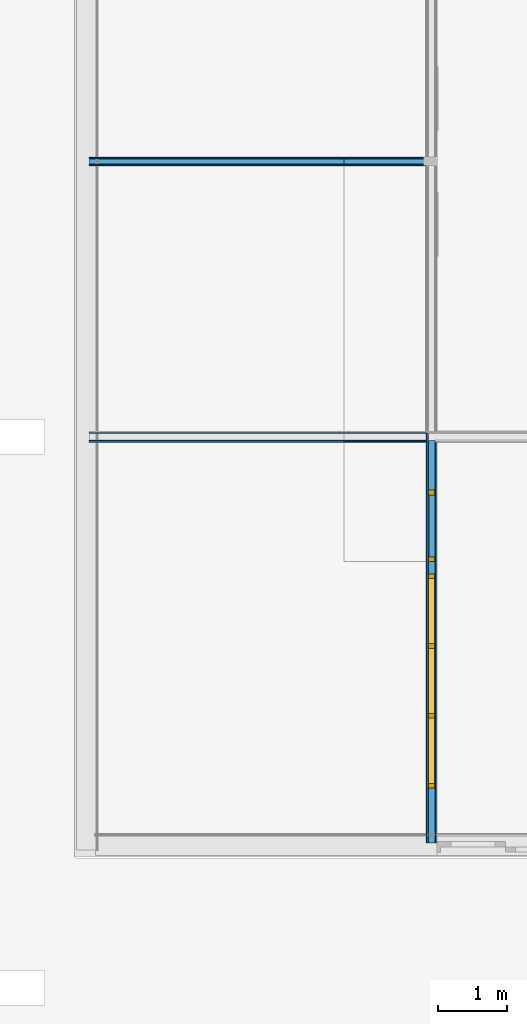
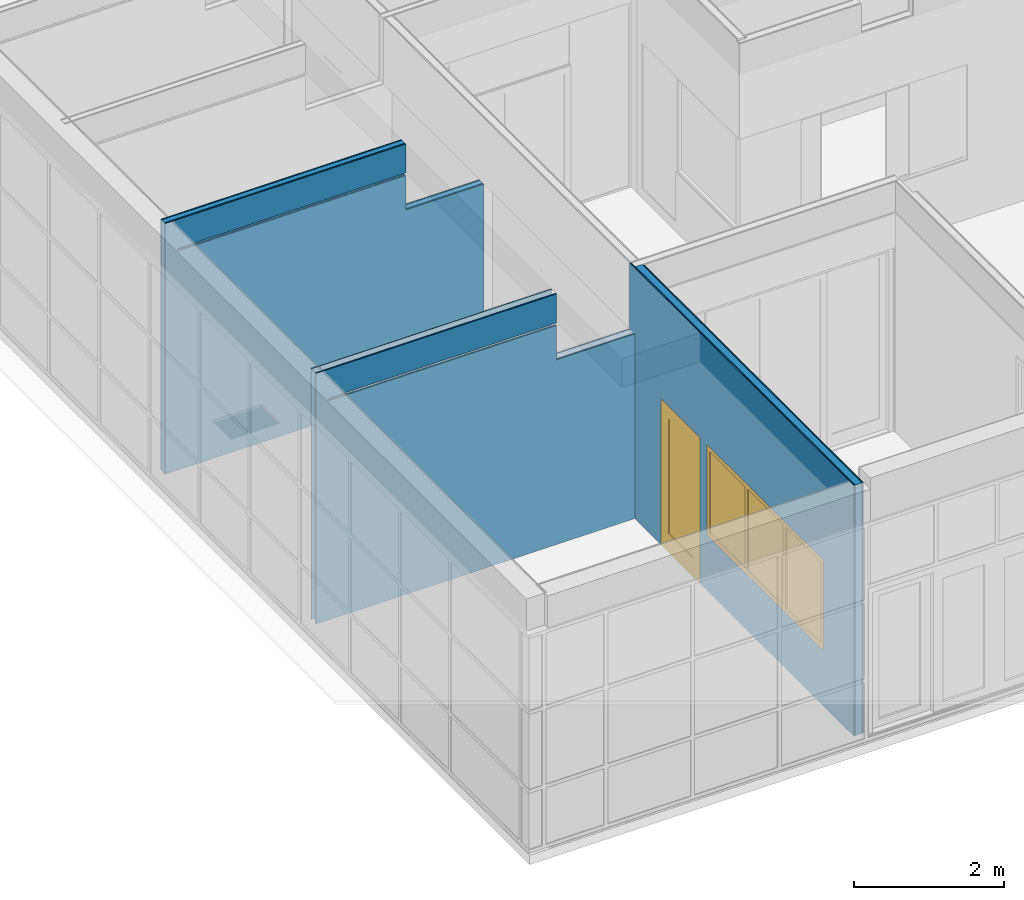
# One storey, part 30 of 109: 13 building element parts, 1 door, 1 window, 2 openings, 3 elements without a shape of their own.
"""IFC2X3 building model written with IfcOpenShell, lengths in millimetres."""

from ifc_helpers import new_model, entity, si_unit, converted_unit, derived_unit, money_unit, direction, frame, origin_with_axes, place, context, subcontext, project, spatial, open_shell, faceted_brep, surface_model, material, type_object, element, fill, aggregate, save


model = new_model("IFC2X3")

# Units and contexts
model_context = context("Model", 3, precision=0.01, world=origin_with_axes(), true_north=direction((0.0, 1.0)))
body_context = subcontext(model_context, "Body", "Model", "MODEL_VIEW")
ifc_project = project(units=[si_unit("LENGTHUNIT", "METRE", prefix="MILLI"), si_unit("AREAUNIT", "SQUARE_METRE"), si_unit("VOLUMEUNIT", "CUBIC_METRE"), converted_unit("PLANEANGLEUNIT", "DEGREE", entity("IfcPlaneAngleMeasure", 0.0174532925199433), si_unit("PLANEANGLEUNIT", "RADIAN"), dimensions=[0, 0, 0, 0, 0, 0, 0]), money_unit("EUR"), converted_unit("TIMEUNIT", "Year", entity("IfcTimeMeasure", 31557600.0), si_unit("TIMEUNIT", "SECOND"), dimensions=[0, 0, 1, 0, 0, 0, 0]), si_unit("MASSUNIT", "GRAM", prefix="KILO"), si_unit("THERMODYNAMICTEMPERATUREUNIT", "DEGREE_CELSIUS"), si_unit("LUMINOUSINTENSITYUNIT", "LUMEN"), si_unit("ENERGYUNIT", "JOULE", prefix="MEGA"), derived_unit("THERMALCONDUCTANCEUNIT", [(si_unit("POWERUNIT", "WATT"), 1), (si_unit("LENGTHUNIT", "METRE"), -1), (si_unit("THERMODYNAMICTEMPERATUREUNIT", "KELVIN"), -1)]), derived_unit("SPECIFICHEATCAPACITYUNIT", [(si_unit("ENERGYUNIT", "JOULE"), 1), (si_unit("MASSUNIT", "GRAM", prefix="KILO"), -1), (si_unit("THERMODYNAMICTEMPERATUREUNIT", "KELVIN"), -1)]), derived_unit("MASSDENSITYUNIT", [(si_unit("MASSUNIT", "GRAM", prefix="KILO"), 1), (si_unit("VOLUMEUNIT", "CUBIC_METRE"), -1)])], contexts=[model_context])

# Site, building, storey
site_placement = place(None, origin_with_axes())
site = spatial("IfcSite", under=ifc_project, at=site_placement, Name="<site naam>", CompositionType="ELEMENT")
building_placement = place(site_placement, origin_with_axes())
building = spatial("IfcBuilding", under=site, at=building_placement, Name="<Naam gebouw>", CompositionType="ELEMENT")
storey_placement = place(building_placement, origin_with_axes())
storey = spatial("IfcBuildingStorey", under=building, at=storey_placement, Name="00 Begane grond", CompositionType="ELEMENT", Elevation=0.0)

# Window
window_style = type_object("IfcWindowStyle", Name="R3 bl ol 27", ConstructionType="NOTDEFINED", OperationType="TRIPLE_PANEL_VERTICAL", ParameterTakesPrecedence=False, Sizeable=False)
wall_1_placement = place(storey_placement, frame((-3999.999999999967, 8000.000000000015, 0.0), z_axis=(0.0, 0.0, 1.0), x_axis=(0.0, -1.0, 0.0)))
opening_1_placement = place(wall_1_placement, frame((3544.817149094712, 0.0, 902.9999549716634), z_axis=(0.0, 0.0, 1.0), x_axis=(1.0, 0.0, 0.0)))
window_placement = place(opening_1_placement, frame((1555.817200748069, 0.0, 0.0), z_axis=(0.0, 0.0, 1.0), x_axis=(-1.0, 0.0, 0.0)))
window = element("IfcWindow", 1, at=window_placement, inside=storey, type_object=window_style, Name="22_BI-E-04_305", ObjectType="WINDOW", OverallHeight=1464.0, OverallWidth=3111.63, context=body_context, shape_type="SurfaceModel", body=[
    faceted_brep([(66.99999999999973, -38.9999999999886, 1397.0), (67.00000000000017, 75.00000000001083, 1397.0), (0.0, 75.00000000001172, 1397.0), (0.0, -38.9999999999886, 1397.0), (66.99999999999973, -38.99999999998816, 66.99999999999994), (67.00000000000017, 75.00000000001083, 66.99999999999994), (0.0, 75.00000000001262, 66.99999999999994), (0.0, -38.99999999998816, 66.99999999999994)], [[[0, 1, 2, 3]], [[4, 5, 1, 0]], [[1, 5, 6, 2]], [[3, 2, 6, 7]], [[0, 3, 7, 4]], [[7, 6, 5, 4]]]),
    faceted_brep([(3044.634401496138, -38.99999999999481, 66.99999999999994), (3044.634401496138, 75.00000000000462, 66.99999999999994), (3111.634401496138, 75.00000000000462, 66.99999999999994), (3111.634401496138, -38.99999999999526, 66.99999999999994), (3044.634401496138, -38.99999999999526, 1397.0), (3044.634401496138, 75.00000000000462, 1397.0), (3111.634401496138, 75.00000000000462, 1397.0), (3111.634401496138, -38.99999999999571, 1397.0)], [[[0, 1, 2, 3]], [[4, 5, 1, 0]], [[1, 5, 6, 2]], [[3, 2, 6, 7]], [[0, 3, 7, 4]], [[7, 6, 5, 4]]]),
    faceted_brep([(2029.756267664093, -38.99999999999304, 66.99999999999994), (2029.756267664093, 75.00000000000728, 66.99999999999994), (2096.756267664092, 75.00000000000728, 66.99999999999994), (2096.756267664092, -38.99999999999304, 66.99999999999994), (2029.756267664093, -38.99999999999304, 1397.0), (2029.756267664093, 75.00000000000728, 1397.0), (2096.756267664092, 75.00000000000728, 1397.0), (2096.756267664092, -38.99999999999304, 1397.0)], [[[0, 1, 2, 3]], [[4, 5, 1, 0]], [[1, 5, 6, 2]], [[3, 2, 6, 7]], [[0, 3, 7, 4]], [[7, 6, 5, 4]]]),
    faceted_brep([(1081.878133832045, -38.99999999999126, 1397.0), (1081.878133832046, 75.00000000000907, 1397.0), (1014.878133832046, 75.00000000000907, 1397.0), (1014.878133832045, -38.99999999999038, 1397.0), (1081.878133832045, -38.99999999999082, 66.99999999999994), (1081.878133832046, 75.00000000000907, 66.99999999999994), (1014.878133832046, 75.00000000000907, 66.99999999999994), (1014.878133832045, -38.99999999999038, 66.99999999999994)], [[[0, 1, 2, 3]], [[4, 5, 1, 0]], [[1, 5, 6, 2]], [[3, 2, 6, 7]], [[0, 3, 7, 4]], [[7, 6, 5, 4]]]),
    faceted_brep([(66.99999999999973, -38.99999999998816, 66.99999999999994), (67.00000000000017, 75.00000000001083, 66.99999999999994), (0.0, 75.00000000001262, 66.99999999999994), (0.0, -38.99999999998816, 66.99999999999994), (1014.878133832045, -38.99999999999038, 66.99999999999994), (1014.878133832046, 75.00000000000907, 66.99999999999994), (1081.878133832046, 75.00000000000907, 66.99999999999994), (2029.756267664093, 75.00000000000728, 66.99999999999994), (2096.756267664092, 75.00000000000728, 66.99999999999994), (3044.634401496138, 75.00000000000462, 66.99999999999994), (3111.634401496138, 75.00000000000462, 66.99999999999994), (3111.634401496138, 75.00000000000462, 0.0), (0.0, 75.00000000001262, 0.0), (0.0, -38.99999999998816, 0.0), (3111.634401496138, -38.99999999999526, 0.0), (3111.634401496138, -38.99999999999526, 66.99999999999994), (3044.634401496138, -38.99999999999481, 66.99999999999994), (2096.756267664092, -38.99999999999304, 66.99999999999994), (2029.756267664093, -38.99999999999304, 66.99999999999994), (1081.878133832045, -38.99999999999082, 66.99999999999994)], [[[0, 1, 2, 3]], [[4, 5, 1, 0]], [[1, 5, 6, 7, 8, 9, 10, 11, 12, 2]], [[3, 2, 12, 13]], [[0, 3, 13, 14, 15, 16, 17, 18, 19, 4]], [[19, 6, 5, 4]], [[18, 7, 6, 19]], [[17, 8, 7, 18]], [[16, 9, 8, 17]], [[15, 10, 9, 16]], [[14, 11, 10, 15]], [[13, 12, 11, 14]]]),
    faceted_brep([(1014.878133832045, -38.99999999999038, 1397.0), (1014.878133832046, 75.00000000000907, 1397.0), (1081.878133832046, 75.00000000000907, 1397.0), (1081.878133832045, -38.99999999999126, 1397.0), (66.99999999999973, -38.9999999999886, 1397.0), (67.00000000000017, 75.00000000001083, 1397.0), (0.0, 75.00000000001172, 1397.0), (0.0, 75.00000000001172, 1464.0), (3111.634401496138, 75.00000000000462, 1464.0), (3111.634401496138, 75.00000000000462, 1397.0), (3044.634401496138, 75.00000000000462, 1397.0), (2096.756267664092, 75.00000000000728, 1397.0), (2029.756267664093, 75.00000000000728, 1397.0), (2029.756267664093, -38.99999999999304, 1397.0), (2096.756267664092, -38.99999999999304, 1397.0), (3044.634401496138, -38.99999999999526, 1397.0), (3111.634401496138, -38.99999999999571, 1397.0), (3111.634401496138, -38.99999999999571, 1464.0), (0.0, -38.9999999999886, 1464.0), (0.0, -38.9999999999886, 1397.0)], [[[0, 1, 2, 3]], [[4, 5, 1, 0]], [[1, 5, 6, 7, 8, 9, 10, 11, 12, 2]], [[3, 2, 12, 13]], [[0, 3, 13, 14, 15, 16, 17, 18, 19, 4]], [[19, 6, 5, 4]], [[18, 7, 6, 19]], [[17, 8, 7, 18]], [[16, 9, 8, 17]], [[15, 10, 9, 16]], [[14, 11, 10, 15]], [[13, 12, 11, 14]]]),
    surface_model("IfcShellBasedSurfaceModel", [(67.00000000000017, 35.00000000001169, 66.99999999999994), (1014.878133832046, 35.00000000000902, 66.99999999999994), (1014.878133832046, 35.00000000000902, 1397.0), (67.00000000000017, 35.0000000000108, 1397.0)], [open_shell([[[0, 1, 2, 3]]])]),
    surface_model("IfcShellBasedSurfaceModel", [(67.00000000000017, 55.00000000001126, 66.99999999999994), (67.00000000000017, 55.00000000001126, 1397.0), (1014.878133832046, 55.0000000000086, 1397.0), (1014.878133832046, 55.00000000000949, 66.99999999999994)], [open_shell([[[0, 1, 2, 3]]])]),
    surface_model("IfcShellBasedSurfaceModel", [(1081.878133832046, 35.00000000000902, 66.99999999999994), (2029.756267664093, 35.00000000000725, 66.99999999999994), (2029.756267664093, 35.00000000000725, 1397.0), (1081.878133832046, 35.00000000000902, 1397.0)], [open_shell([[[0, 1, 2, 3]]])]),
    surface_model("IfcShellBasedSurfaceModel", [(1081.878133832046, 55.00000000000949, 66.99999999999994), (1081.878133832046, 55.0000000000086, 1397.0), (2029.756267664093, 55.00000000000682, 1397.0), (2029.756267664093, 55.00000000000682, 66.99999999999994)], [open_shell([[[0, 1, 2, 3]]])]),
    surface_model("IfcShellBasedSurfaceModel", [(2096.756267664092, 35.00000000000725, 66.99999999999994), (3044.634401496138, 35.00000000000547, 66.99999999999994), (3044.634401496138, 35.00000000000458, 1397.0), (2096.756267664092, 35.00000000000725, 1397.0)], [open_shell([[[0, 1, 2, 3]]])]),
    surface_model("IfcShellBasedSurfaceModel", [(2096.756267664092, 55.00000000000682, 66.99999999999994), (2096.756267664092, 55.00000000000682, 1397.0), (3044.634401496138, 55.00000000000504, 1397.0), (3044.634401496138, 55.00000000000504, 66.99999999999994)], [open_shell([[[0, 1, 2, 3]]])]),
])

# Door
door_style = type_object("IfcDoorStyle", Name="D1 27", ConstructionType="NOTDEFINED", OperationType="SINGLE_SWING_RIGHT", ParameterTakesPrecedence=False, Sizeable=False)
opening_2_placement = place(wall_1_placement, frame((1292.0, 0.0, 0.0), z_axis=(0.0, 0.0, 1.0), x_axis=(1.0, 0.0, 0.0)))
door_placement = place(opening_2_placement, frame((450.0000000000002, 0.0, 0.0), z_axis=(0.0, 0.0, 1.0), x_axis=(-1.0, 0.0, 0.0)))
door = element("IfcDoor", 2, at=door_placement, inside=storey, type_object=door_style, Name="22_BI-A-02 sp_305", ObjectType="DOOR", OverallHeight=2367.0, OverallWidth=1034.0, context=body_context, shape_type="SurfaceModel", body=[
    faceted_brep([(0.0, 35.00000000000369, 0.0), (0.0, 35.00000000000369, 2300.0), (0.0, -38.99999999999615, 2300.0), (0.0, -38.99999999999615, 0.0), (-16.99999999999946, 35.00000000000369, 2300.0), (-16.99999999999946, 35.00000000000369, 0.0), (-16.99999999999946, 75.00000000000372, 2300.0), (-67.00000000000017, 75.00000000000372, 2300.0), (-67.00000000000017, -38.99999999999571, 2300.0), (-67.00000000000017, -38.99999999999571, 0.0), (-67.00000000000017, 75.00000000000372, 0.0), (-16.99999999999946, 75.00000000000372, 0.0)], [[[0, 1, 2, 3]], [[4, 1, 0, 5]], [[4, 6, 7, 8, 2, 1]], [[3, 2, 8, 9]], [[5, 0, 3, 9, 10, 11]], [[6, 4, 5, 11]], [[6, 11, 10, 7]], [[10, 9, 8, 7]]]),
    faceted_brep([(916.9999999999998, 35.00000000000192, 2300.0), (900.0000000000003, 35.00000000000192, 2300.0), (900.0000000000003, -38.99999999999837, 2300.0), (967.0000000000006, -38.99999999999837, 2300.0), (967.0000000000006, 75.00000000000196, 2300.0), (916.9999999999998, 75.00000000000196, 2300.0), (916.9999999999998, 35.00000000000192, 0.0), (900.0000000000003, 35.00000000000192, 0.0), (900.0000000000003, -38.99999999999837, 0.0), (967.0000000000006, -38.99999999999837, 0.0), (967.0000000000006, 75.00000000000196, 0.0), (916.9999999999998, 75.00000000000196, 0.0)], [[[0, 1, 2, 3, 4, 5]], [[1, 0, 6, 7]], [[1, 7, 8, 2]], [[3, 2, 8, 9]], [[4, 3, 9, 10]], [[11, 5, 4, 10]], [[0, 5, 11, 6]], [[6, 11, 10, 9, 8, 7]]]),
    faceted_brep([(-16.99999999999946, 75.00000000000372, 2317.0), (-16.99999999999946, 75.00000000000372, 2300.0), (-67.00000000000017, 75.00000000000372, 2300.0), (-67.00000000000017, 75.00000000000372, 2367.0), (967.0000000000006, 75.00000000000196, 2367.0), (967.0000000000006, 75.00000000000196, 2300.0), (916.9999999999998, 75.00000000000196, 2300.0), (916.9999999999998, 75.00000000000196, 2317.0), (-16.99999999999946, 35.00000000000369, 2317.0), (-16.99999999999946, 35.00000000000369, 2300.0), (0.0, 35.00000000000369, 2300.0), (0.0, -38.99999999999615, 2300.0), (-67.00000000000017, -38.99999999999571, 2300.0), (-67.00000000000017, -38.99999999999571, 2367.0), (967.0000000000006, -38.99999999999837, 2367.0), (967.0000000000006, -38.99999999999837, 2300.0), (916.9999999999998, 35.00000000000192, 2300.0), (900.0000000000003, -38.99999999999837, 2300.0), (900.0000000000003, 35.00000000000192, 2300.0), (916.9999999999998, 35.00000000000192, 2317.0)], [[[0, 1, 2, 3, 4, 5, 6, 7]], [[1, 0, 8, 9]], [[9, 10, 11, 12, 2, 1]], [[2, 12, 13, 3]], [[3, 13, 14, 4]], [[4, 14, 15, 5]], [[16, 6, 5, 15, 17, 18]], [[7, 6, 16, 19]], [[0, 7, 19, 8]], [[16, 18, 10, 9, 8, 19]], [[10, 18, 17, 11]], [[17, 15, 14, 13, 12, 11]]]),
    faceted_brep([(917.0000000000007, 75.00000000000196, 300.0), (917.0000000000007, 35.00000000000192, 300.0), (767.0000000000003, 35.00000000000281, 300.0), (767.0000000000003, 75.00000000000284, 300.0), (917.0000000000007, 75.00000000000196, 2167.0), (917.0000000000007, 35.00000000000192, 2167.0), (767.0000000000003, 35.00000000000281, 2167.0), (767.0000000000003, 75.00000000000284, 2167.0)], [[[0, 1, 2, 3]], [[4, 5, 1, 0]], [[1, 5, 6, 2]], [[3, 2, 6, 7]], [[0, 3, 7, 4]], [[7, 6, 5, 4]]]),
    faceted_brep([(-16.99999999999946, 75.00000000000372, 300.0), (-16.99999999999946, 35.00000000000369, 300.0), (-16.99999999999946, 35.00000000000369, 2167.0), (-16.99999999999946, 75.00000000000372, 2167.0), (133.0, 75.00000000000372, 300.0), (133.0, 35.00000000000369, 300.0), (133.0, 35.00000000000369, 2167.0), (133.0, 75.00000000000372, 2167.0)], [[[0, 1, 2, 3]], [[4, 5, 1, 0]], [[1, 5, 6, 2]], [[3, 2, 6, 7]], [[0, 3, 7, 4]], [[7, 6, 5, 4]]]),
    faceted_brep([(917.0000000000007, 75.00000000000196, 0.0), (917.0000000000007, 35.00000000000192, 0.0), (-16.99999999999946, 35.00000000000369, 0.0), (-16.99999999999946, 75.00000000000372, 0.0), (917.0000000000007, 75.00000000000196, 300.0), (917.0000000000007, 35.00000000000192, 300.0), (767.0000000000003, 35.00000000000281, 300.0), (133.0, 35.00000000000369, 300.0), (-16.99999999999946, 35.00000000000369, 300.0), (-16.99999999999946, 75.00000000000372, 300.0), (133.0, 75.00000000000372, 300.0), (767.0000000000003, 75.00000000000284, 300.0)], [[[0, 1, 2, 3]], [[4, 5, 1, 0]], [[1, 5, 6, 7, 8, 2]], [[3, 2, 8, 9]], [[0, 3, 9, 10, 11, 4]], [[11, 6, 5, 4]], [[10, 7, 6, 11]], [[9, 8, 7, 10]]]),
    faceted_brep([(917.0000000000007, 75.00000000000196, 2317.0), (917.0000000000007, 35.00000000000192, 2317.0), (917.0000000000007, 35.00000000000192, 2167.0), (917.0000000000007, 75.00000000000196, 2167.0), (-16.99999999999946, 75.00000000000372, 2317.0), (-16.99999999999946, 35.00000000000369, 2317.0), (-16.99999999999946, 35.00000000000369, 2167.0), (133.0, 35.00000000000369, 2167.0), (767.0000000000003, 35.00000000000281, 2167.0), (767.0000000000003, 75.00000000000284, 2167.0), (133.0, 75.00000000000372, 2167.0), (-16.99999999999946, 75.00000000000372, 2167.0)], [[[0, 1, 2, 3]], [[4, 5, 1, 0]], [[1, 5, 6, 7, 8, 2]], [[3, 2, 8, 9]], [[0, 3, 9, 10, 11, 4]], [[11, 6, 5, 4]], [[10, 7, 6, 11]], [[9, 8, 7, 10]]]),
    surface_model("IfcShellBasedSurfaceModel", [(767.0000000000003, 61.00000000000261, 300.0), (133.0, 61.0000000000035, 300.0), (133.0, 61.0000000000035, 2167.0), (767.0000000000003, 61.00000000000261, 2167.0)], [open_shell([[[0, 1, 2, 3]]])]),
    surface_model("IfcShellBasedSurfaceModel", [(767.0000000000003, 49.00000000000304, 300.0), (767.0000000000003, 49.00000000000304, 2167.0), (133.0, 49.00000000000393, 2167.0), (133.0, 49.00000000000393, 300.0)], [open_shell([[[0, 1, 2, 3]]])]),
])

# Wall, opening
wall_type_1 = type_object("IfcWallType", Name="MS-01 GF 150 ECO DGS/2.100.2.A 150", PredefinedType="NOTDEFINED")
wall_1 = element("IfcWall", 3, at=wall_1_placement, inside=storey, type_object=wall_type_1, Name="22_Binnenwand_MS-01")
opening_1 = element("IfcOpeningElement", 4, at=opening_1_placement, cuts=wall_1, Name="22_BI-E-04_305", context=body_context, shape_type="Brep", body=[
    faceted_brep([(1555.81720074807, 76.00000000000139, 1464.0), (1555.81720074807, 76.00000000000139, 0.0), (-1555.817200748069, 76.0000000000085, 0.0), (-1555.817200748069, 76.0000000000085, 1464.0), (1555.817200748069, -76.00000000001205, 1464.0), (1555.817200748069, -76.00000000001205, 0.0), (-1555.817200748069, -76.00000000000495, 0.0), (-1555.817200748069, -76.00000000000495, 1464.0)], [[[0, 1, 2, 3]], [[4, 5, 1, 0]], [[5, 6, 2, 1]], [[6, 7, 3, 2]], [[7, 4, 0, 3]], [[6, 5, 4, 7]]]),
])

fill(opening_1, window)

# Opening
opening_2 = element("IfcOpeningElement", 5, at=opening_2_placement, cuts=wall_1, Name="22_BI-A-02 sp_305", context=body_context, shape_type="Brep", body=[
    faceted_brep([(517.0000000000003, 76.00000000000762, 2367.0), (517.0000000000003, 76.00000000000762, 0.0), (-517.0000000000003, 76.00000000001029, 0.0), (-517.0000000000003, 76.00000000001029, 2367.0), (517.0000000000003, -76.00000000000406, 2367.0), (517.0000000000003, -76.00000000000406, 0.0), (-517.0000000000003, -76.00000000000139, 0.0), (-517.0000000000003, -76.00000000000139, 2367.0)], [[[0, 1, 2, 3]], [[4, 5, 1, 0]], [[5, 6, 2, 1]], [[6, 7, 3, 2]], [[7, 4, 0, 3]], [[6, 5, 4, 7]]]),
])

fill(opening_2, door)

# Building element part
ifc_material_1 = material(Name="gipsplaat")
building_element_part_1_placement = place(wall_1_placement, origin_with_axes())
building_element_part_1 = element("IfcBuildingElementPart", 6, at=building_element_part_1_placement, material=ifc_material_1, Name="gipsplaat", context=body_context, shape_type="Brep", body=[
    faceted_brep([(74.99999999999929, 62.5, 0.0), (74.99999999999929, 75.00000000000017, 0.0), (5896.500872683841, 74.99999999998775, 0.0), (5896.500872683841, 62.49999999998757, 0.0), (74.99999999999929, 62.50000000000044, 4070.0), (74.99999999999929, 75.00000000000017, 4070.0), (5896.500872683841, 74.99999999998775, 4070.0), (5896.500872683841, 62.49999999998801, 4070.0)], [[[0, 1, 2, 3]], [[4, 5, 1, 0]], [[1, 5, 6, 2]], [[7, 3, 2, 6]], [[4, 0, 3, 7]], [[5, 4, 7, 6]]]),
])

building_element_part_2_placement = place(wall_1_placement, origin_with_axes())
building_element_part_2 = element("IfcBuildingElementPart", 7, at=building_element_part_2_placement, material=ifc_material_1, Name="gipsplaat", context=body_context, shape_type="Brep", body=[
    faceted_brep([(62.49999999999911, 49.99999999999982, 0.0), (62.49999999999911, 62.5, 0.0), (5896.500872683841, 62.49999999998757, 0.0), (5896.500872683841, 49.99999999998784, 0.0), (62.49999999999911, 50.00000000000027, 4070.0), (62.49999999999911, 62.50000000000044, 4070.0), (5896.500872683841, 62.49999999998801, 4070.0), (5896.500872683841, 49.99999999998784, 4070.0)], [[[0, 1, 2, 3]], [[4, 5, 1, 0]], [[1, 5, 6, 2]], [[7, 3, 2, 6]], [[4, 0, 3, 7]], [[5, 4, 7, 6]]]),
])

ifc_material_2 = material(Name="isolatie_steenwol LSW")
building_element_part_3_placement = place(wall_1_placement, origin_with_axes())
building_element_part_3 = element("IfcBuildingElementPart", 8, at=building_element_part_3_placement, material=ifc_material_2, Name="isolatie_steenwol LSW", context=body_context, shape_type="Brep", body=[
    faceted_brep([(49.99999999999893, -49.99999999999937, 0.0), (49.99999999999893, 49.99999999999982, 0.0), (5896.500872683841, 49.99999999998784, 0.0), (5896.500872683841, -50.00000000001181, 0.0), (49.99999999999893, -49.99999999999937, 4070.0), (49.99999999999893, 50.00000000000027, 4070.0), (5896.500872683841, 49.99999999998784, 4070.0), (5896.500872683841, -50.00000000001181, 4070.0)], [[[0, 1, 2, 3]], [[4, 5, 1, 0]], [[1, 5, 6, 2]], [[7, 3, 2, 6]], [[4, 0, 3, 7]], [[5, 4, 7, 6]]]),
])

building_element_part_4_placement = place(wall_1_placement, origin_with_axes())
building_element_part_4 = element("IfcBuildingElementPart", 9, at=building_element_part_4_placement, material=ifc_material_1, Name="gipsplaat", context=body_context, shape_type="Brep", body=[
    faceted_brep([(-50.00000000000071, -62.49999999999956, 0.0), (-50.00000000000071, -49.99999999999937, 0.0), (5896.500872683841, -50.00000000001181, 0.0), (5896.500872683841, -62.50000000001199, 0.0), (-50.00000000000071, -62.49999999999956, 4070.0), (-50.00000000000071, -49.99999999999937, 4070.0), (5896.500872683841, -50.00000000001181, 4070.0), (5896.500872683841, -62.50000000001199, 4070.0)], [[[0, 1, 2, 3]], [[4, 5, 1, 0]], [[1, 5, 6, 2]], [[7, 3, 2, 6]], [[4, 0, 3, 7]], [[5, 4, 7, 6]]]),
])

building_element_part_5_placement = place(wall_1_placement, origin_with_axes())
building_element_part_5 = element("IfcBuildingElementPart", 10, at=building_element_part_5_placement, material=ifc_material_1, Name="gipsplaat", context=body_context, shape_type="Brep", body=[
    faceted_brep([(-62.5, -74.99999999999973, 0.0), (-62.5, -62.49999999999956, 0.0), (5896.500872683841, -62.50000000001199, 0.0), (5896.500872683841, -75.00000000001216, 0.0), (-62.5, -74.99999999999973, 4070.0), (-62.5, -62.49999999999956, 4070.0), (5896.500872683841, -62.50000000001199, 4070.0), (5896.500872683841, -75.00000000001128, 4070.0)], [[[0, 1, 2, 3]], [[4, 5, 1, 0]], [[1, 5, 6, 2]], [[7, 3, 2, 6]], [[4, 0, 3, 7]], [[5, 4, 7, 6]]]),
])

aggregate(wall_1, [building_element_part_1, building_element_part_2, building_element_part_3, building_element_part_4, building_element_part_5])

# Wall, building element parts
wall_2_placement = place(storey_placement, frame((-8968.96338968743, 8000.000000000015, 0.0), z_axis=(0.0, 0.0, 1.0), x_axis=(1.0, 0.0, 0.0)))
wall_2 = element("IfcWall", 11, at=wall_2_placement, inside=storey, type_object=wall_type_1, Name="22_Binnenwand_MS-01")
building_element_part_6_placement = place(wall_2_placement, origin_with_axes())
building_element_part_6 = element("IfcBuildingElementPart", 12, at=building_element_part_6_placement, material=ifc_material_1, Name="gipsplaat", context=body_context, shape_type="Brep", body=[
    faceted_brep([(3693.915193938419, -62.49999999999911, 4070.0), (3693.915193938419, -49.99999999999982, 4070.0), (0.0, -49.99999999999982, 4070.0), (0.0, -62.5, 4070.0), (3693.915193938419, -50.00000000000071, 3600.0), (3693.915193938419, -62.5, 3600.0), (3693.915193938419, -50.00000000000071, 3560.0), (3693.915193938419, -50.00000000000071, 3000.0), (4893.963384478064, -50.00000000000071, 3000.0), (4893.963389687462, -49.99999999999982, 0.0), (0.0, -49.99999999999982, 0.0), (184.5000000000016, -49.99999999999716, 3600.0), (184.5000000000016, -49.99999999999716, 3560.0), (0.0, -62.5, 0.0), (3693.915193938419, -62.50000000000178, 3000.0), (3693.915193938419, -62.5, 3560.0), (184.5000000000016, -62.5, 3560.0), (184.5000000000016, -62.5, 3600.0), (4893.963389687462, -62.5, 0.0), (4893.963384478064, -62.49999999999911, 3000.0)], [[[0, 1, 2, 3]], [[4, 1, 0, 5]], [[6, 7, 8, 9, 10, 2, 1, 4, 11, 12]], [[13, 3, 2, 10]], [[14, 15, 16, 17, 5, 0, 3, 13, 18, 19]], [[4, 5, 17, 11]], [[7, 6, 15, 14]], [[19, 8, 7, 14]], [[8, 19, 18, 9]], [[10, 9, 18, 13]], [[12, 11, 17, 16]], [[15, 6, 12, 16]]]),
])
building_element_part_7_placement = place(wall_2_placement, origin_with_axes())
building_element_part_7 = element("IfcBuildingElementPart", 13, at=building_element_part_7_placement, material=ifc_material_1, Name="gipsplaat", context=body_context, shape_type="Brep", body=[
    faceted_brep([(3693.915193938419, 50.00000000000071, 4070.0), (3693.915193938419, 62.5, 4070.0), (0.0, 62.5, 4070.0), (0.0, 50.00000000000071, 4070.0), (3693.915193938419, 62.5, 3600.0), (3693.915193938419, 50.00000000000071, 3600.0), (3693.915193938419, 62.5, 3560.0), (3693.915193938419, 62.5, 3000.0), (4893.963384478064, 62.5, 3000.0), (4893.963389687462, 62.5, 0.0), (0.0, 62.5, 0.0), (184.5000000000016, 62.5, 3600.0), (184.5000000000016, 62.5, 3560.0), (0.0, 50.00000000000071, 0.0), (3693.915193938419, 49.99999999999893, 3000.0), (3693.915193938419, 50.00000000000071, 3560.0), (184.5000000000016, 50.00000000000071, 3560.0), (184.5000000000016, 50.00000000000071, 3600.0), (4893.963389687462, 50.00000000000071, 0.0), (4893.963384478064, 50.00000000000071, 3000.0)], [[[0, 1, 2, 3]], [[4, 1, 0, 5]], [[6, 7, 8, 9, 10, 2, 1, 4, 11, 12]], [[13, 3, 2, 10]], [[14, 15, 16, 17, 5, 0, 3, 13, 18, 19]], [[4, 5, 17, 11]], [[7, 6, 15, 14]], [[19, 8, 7, 14]], [[8, 19, 18, 9]], [[10, 9, 18, 13]], [[12, 11, 17, 16]], [[15, 6, 12, 16]]]),
])
building_element_part_8_placement = place(wall_2_placement, origin_with_axes())
building_element_part_8 = element("IfcBuildingElementPart", 14, at=building_element_part_8_placement, material=ifc_material_1, Name="gipsplaat", context=body_context, shape_type="Brep", body=[
    faceted_brep([(3693.915193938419, -74.99999999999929, 4070.0), (3693.915193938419, -62.49999999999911, 4070.0), (0.0, -62.5, 4070.0), (0.0, -75.00000000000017, 4070.0), (3693.915193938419, -62.5, 3600.0), (3693.915193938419, -75.00000000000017, 3600.0), (3693.915193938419, -62.5, 3560.0), (3693.915193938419, -62.5, 3000.0), (4893.963384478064, -62.5, 3000.0), (4893.963389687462, -62.5, 0.0), (0.0, -62.5, 0.0), (184.5000000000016, -62.49999999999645, 3600.0), (184.5000000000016, -62.49999999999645, 3560.0), (0.0, -75.00000000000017, 0.0), (3693.915193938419, -75.00000000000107, 3000.0), (3693.915193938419, -75.00000000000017, 3560.0), (184.5000000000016, -74.99999999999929, 3560.0), (184.5000000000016, -74.99999999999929, 3600.0), (4893.963389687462, -74.99999999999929, 0.0), (4893.963384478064, -74.99999999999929, 3000.0)], [[[0, 1, 2, 3]], [[4, 1, 0, 5]], [[6, 7, 8, 9, 10, 2, 1, 4, 11, 12]], [[13, 3, 2, 10]], [[14, 15, 16, 17, 5, 0, 3, 13, 18, 19]], [[4, 5, 17, 11]], [[7, 6, 15, 14]], [[19, 8, 7, 14]], [[8, 19, 18, 9]], [[10, 9, 18, 13]], [[12, 11, 17, 16]], [[15, 6, 12, 16]]]),
])
aggregate(wall_2, [building_element_part_6, building_element_part_7, building_element_part_8])

wall_type_2 = type_object("IfcWallType", Name="MS-02 GF 125 ECO DGS/2.75.2.A 125", PredefinedType="NOTDEFINED")
wall_3_placement = place(storey_placement, frame((-8968.963389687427, 12000.00000000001, 0.0), z_axis=(0.0, 0.0, 1.0), x_axis=(1.0, 0.0, 0.0)))
wall_3 = element("IfcWall", 15, at=wall_3_placement, inside=storey, type_object=wall_type_2, Name="22_Binnenwand_MS-02")
building_element_part_9_placement = place(wall_3_placement, origin_with_axes())
building_element_part_9 = element("IfcBuildingElementPart", 16, at=building_element_part_9_placement, material=ifc_material_1, Name="gipsplaat", context=body_context, shape_type="Brep", body=[
    faceted_brep([(3693.915193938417, 50.00000000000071, 4070.0), (3693.915193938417, 62.5, 4070.0), (0.0, 62.5, 4070.0), (0.0, 50.00000000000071, 4070.0), (3693.915193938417, 62.5, 3600.0), (3693.915193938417, 50.00000000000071, 3600.0), (3693.915193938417, 62.5, 3560.0), (3693.915193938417, 62.5, 3000.0), (4893.963384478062, 62.5, 3000.0), (4893.963389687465, 62.5, 0.0), (0.0, 62.5, 0.0), (184.4999999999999, 62.50000000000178, 3600.0), (184.4999999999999, 62.50000000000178, 3560.0), (0.0, 50.00000000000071, 0.0), (3693.915193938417, 50.00000000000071, 3000.0), (3693.915193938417, 50.00000000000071, 3560.0), (184.4999999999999, 49.99999999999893, 3560.0), (184.4999999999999, 49.99999999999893, 3600.0), (4893.963389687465, 50.00000000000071, 0.0), (4893.963384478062, 50.00000000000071, 3000.0)], [[[0, 1, 2, 3]], [[4, 1, 0, 5]], [[6, 7, 8, 9, 10, 2, 1, 4, 11, 12]], [[2, 10, 13, 3]], [[14, 15, 16, 17, 5, 0, 3, 13, 18, 19]], [[4, 5, 17, 11]], [[7, 6, 15, 14]], [[19, 8, 7, 14]], [[8, 19, 18, 9]], [[9, 18, 13, 10]], [[12, 11, 17, 16]], [[15, 6, 12, 16]]]),
])
building_element_part_10_placement = place(wall_3_placement, origin_with_axes())
building_element_part_10 = element("IfcBuildingElementPart", 17, at=building_element_part_10_placement, material=ifc_material_1, Name="gipsplaat", context=body_context, shape_type="Brep", body=[
    faceted_brep([(3693.915193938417, 37.50000000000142, 4070.0), (3693.915193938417, 50.00000000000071, 4070.0), (0.0, 50.00000000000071, 4070.0), (0.0, 37.49999999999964, 4070.0), (3693.915193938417, 50.00000000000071, 3600.0), (3693.915193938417, 37.50000000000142, 3600.0), (3693.915193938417, 50.00000000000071, 3560.0), (3693.915193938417, 50.00000000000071, 3000.0), (4893.963384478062, 50.00000000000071, 3000.0), (4893.963389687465, 50.00000000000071, 0.0), (0.0, 50.00000000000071, 0.0), (184.4999999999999, 49.99999999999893, 3600.0), (184.4999999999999, 49.99999999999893, 3560.0), (0.0, 37.49999999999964, 0.0), (3693.915193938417, 37.50000000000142, 3000.0), (3693.915193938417, 37.50000000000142, 3560.0), (184.4999999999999, 37.50000000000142, 3560.0), (184.4999999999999, 37.50000000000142, 3600.0), (4893.963389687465, 37.49999999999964, 0.0), (4893.963384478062, 37.50000000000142, 3000.0)], [[[0, 1, 2, 3]], [[4, 1, 0, 5]], [[6, 7, 8, 9, 10, 2, 1, 4, 11, 12]], [[2, 10, 13, 3]], [[14, 15, 16, 17, 5, 0, 3, 13, 18, 19]], [[4, 5, 17, 11]], [[7, 6, 15, 14]], [[19, 8, 7, 14]], [[8, 19, 18, 9]], [[9, 18, 13, 10]], [[12, 11, 17, 16]], [[15, 6, 12, 16]]]),
])
building_element_part_11_placement = place(wall_3_placement, origin_with_axes())
building_element_part_11 = element("IfcBuildingElementPart", 18, at=building_element_part_11_placement, material=ifc_material_2, Name="isolatie_steenwol LSW", context=body_context, shape_type="Brep", body=[
    faceted_brep([(3693.915193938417, -37.49999999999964, 4070.0), (3693.915193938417, 37.50000000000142, 4070.0), (0.0, 37.49999999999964, 4070.0), (0.0, -37.49999999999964, 4070.0), (3693.915193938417, 37.49999999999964, 3600.0), (3693.915193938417, -37.50000000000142, 3600.0), (3693.915193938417, 37.49999999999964, 3560.0), (3693.915193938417, 37.49999999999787, 3000.0), (4893.963384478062, 37.50000000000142, 3000.0), (4893.963389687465, 37.49999999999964, 0.0), (0.0, 37.49999999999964, 0.0), (184.4999999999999, 37.49999999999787, 3600.0), (184.4999999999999, 37.49999999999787, 3560.0), (0.0, -37.49999999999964, 0.0), (3693.915193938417, -37.50000000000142, 3000.0), (3693.915193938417, -37.50000000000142, 3560.0), (184.4999999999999, -37.49999999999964, 3560.0), (184.4999999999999, -37.49999999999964, 3600.0), (4893.963389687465, -37.49999999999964, 0.0), (4893.963384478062, -37.49999999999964, 3000.0)], [[[0, 1, 2, 3]], [[4, 1, 0, 5]], [[6, 7, 8, 9, 10, 2, 1, 4, 11, 12]], [[2, 10, 13, 3]], [[14, 15, 16, 17, 5, 0, 3, 13, 18, 19]], [[4, 5, 17, 11]], [[7, 6, 15, 14]], [[19, 8, 7, 14]], [[8, 19, 18, 9]], [[9, 18, 13, 10]], [[12, 11, 17, 16]], [[15, 6, 12, 16]]]),
])
building_element_part_12_placement = place(wall_3_placement, origin_with_axes())
building_element_part_12 = element("IfcBuildingElementPart", 19, at=building_element_part_12_placement, material=ifc_material_1, Name="gipsplaat", context=body_context, shape_type="Brep", body=[
    faceted_brep([(3693.915193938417, -49.99999999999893, 4070.0), (3693.915193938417, -37.49999999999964, 4070.0), (0.0, -37.49999999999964, 4070.0), (0.0, -49.99999999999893, 4070.0), (3693.915193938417, -37.49999999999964, 3600.0), (3693.915193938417, -50.00000000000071, 3600.0), (3693.915193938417, -37.49999999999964, 3560.0), (3693.915193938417, -37.49999999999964, 3000.0), (4893.963384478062, -37.49999999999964, 3000.0), (4893.963389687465, -37.49999999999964, 0.0), (0.0, -37.49999999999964, 0.0), (184.4999999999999, -37.49999999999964, 3600.0), (184.4999999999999, -37.49999999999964, 3560.0), (0.0, -50.00000000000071, 0.0), (3693.915193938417, -50.00000000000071, 3000.0), (3693.915193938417, -50.00000000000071, 3560.0), (184.4999999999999, -49.99999999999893, 3560.0), (184.4999999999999, -49.99999999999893, 3600.0), (4893.963389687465, -49.99999999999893, 0.0), (4893.963384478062, -49.99999999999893, 3000.0)], [[[0, 1, 2, 3]], [[4, 1, 0, 5]], [[6, 7, 8, 9, 10, 2, 1, 4, 11, 12]], [[2, 10, 13, 3]], [[14, 15, 16, 17, 5, 0, 3, 13, 18, 19]], [[4, 5, 17, 11]], [[7, 6, 15, 14]], [[19, 8, 7, 14]], [[8, 19, 18, 9]], [[9, 18, 13, 10]], [[12, 11, 17, 16]], [[15, 6, 12, 16]]]),
])
building_element_part_13_placement = place(wall_3_placement, origin_with_axes())
building_element_part_13 = element("IfcBuildingElementPart", 20, at=building_element_part_13_placement, material=ifc_material_1, Name="gipsplaat", context=body_context, shape_type="Brep", body=[
    faceted_brep([(3693.915193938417, -62.5, 4070.0), (3693.915193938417, -49.99999999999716, 4070.0), (0.0, -49.99999999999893, 4070.0), (0.0, -62.5, 4070.0), (3693.915193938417, -49.99999999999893, 3600.0), (3693.915193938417, -62.5, 3600.0), (3693.915193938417, -49.99999999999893, 3560.0), (3693.915193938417, -49.99999999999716, 3000.0), (4893.963384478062, -50.00000000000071, 3000.0), (4893.963389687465, -49.99999999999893, 0.0), (0.0, -50.00000000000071, 0.0), (184.4999999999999, -49.99999999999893, 3600.0), (184.4999999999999, -49.99999999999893, 3560.0), (0.0, -62.5, 0.0), (3693.915193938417, -62.5, 3000.0), (3693.915193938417, -62.5, 3560.0), (184.4999999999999, -62.5, 3560.0), (184.4999999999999, -62.5, 3600.0), (4893.963389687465, -62.5, 0.0), (4893.963384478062, -62.5, 3000.0)], [[[0, 1, 2, 3]], [[4, 1, 0, 5]], [[6, 7, 8, 9, 10, 2, 1, 4, 11, 12]], [[2, 10, 13, 3]], [[14, 15, 16, 17, 5, 0, 3, 13, 18, 19]], [[4, 5, 17, 11]], [[7, 6, 15, 14]], [[19, 8, 7, 14]], [[8, 19, 18, 9]], [[9, 18, 13, 10]], [[12, 11, 17, 16]], [[15, 6, 12, 16]]]),
])
aggregate(wall_3, [building_element_part_9, building_element_part_10, building_element_part_11, building_element_part_12, building_element_part_13])

save(model, "model.ifc")
